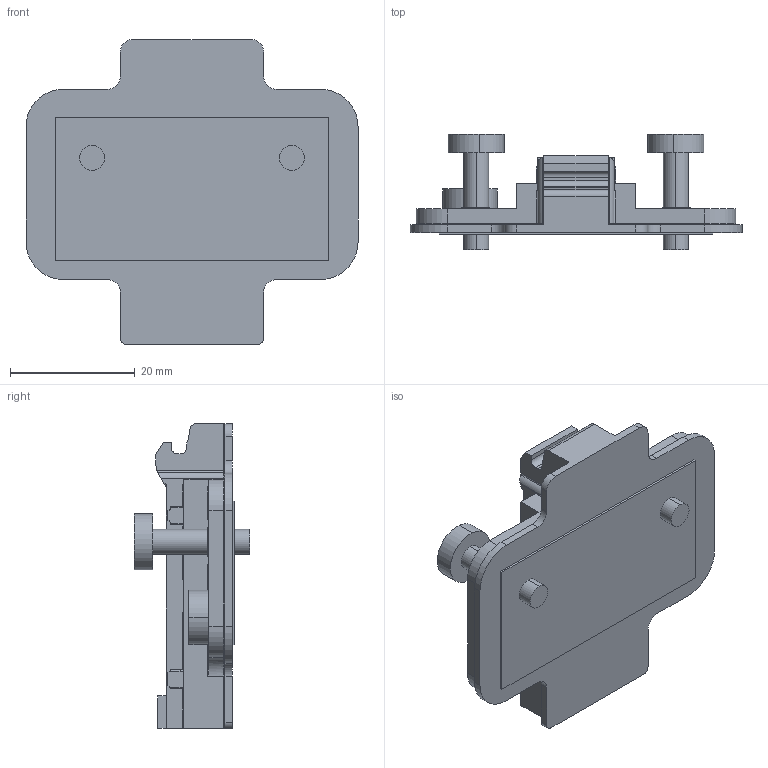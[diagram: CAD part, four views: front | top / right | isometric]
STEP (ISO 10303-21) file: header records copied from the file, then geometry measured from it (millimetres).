
FILE_DESCRIPTION (( 'STEP AP203' ), '1' );
FILE_NAME ('81T4PTQA.STEP', '2024-07-26T09:04:00', ( '微软用户' ), ( '微软中国' ), 'SwSTEP 2.0', 'SolidWorks 2021', '' );
FILE_SCHEMA (( 'CONFIG_CONTROL_DESIGN' ));
Length unit declared in the file: millimetre
Products named in the file (1): 81T4PTQA
Bounding box: 53.2 x 18.57 x 48.85 mm (x, y, z)
Volume: 13130.1 mm3; surface area: 6595.7 mm2
Topology: 1 solids, 1 shells, 292 faces, 789 edges, 501 vertices
Faces by surface type: cylinder 126, plane 111, torus 47, bspline 4, sphere 4
Entity records: 9682 total; most frequent: CARTESIAN_POINT 2285, ORIENTED_EDGE 1562, DIRECTION 1546, EDGE_CURVE 781, AXIS2_PLACEMENT_3D 575, VERTEX_POINT 501, LINE 396, VECTOR 396
